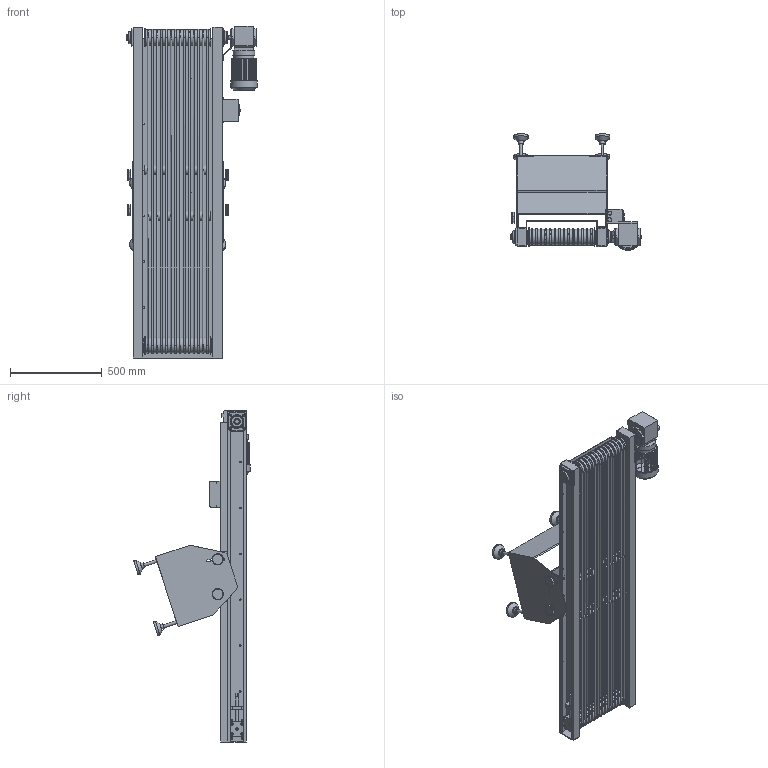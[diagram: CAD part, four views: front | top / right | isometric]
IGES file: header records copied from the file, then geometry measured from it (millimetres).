
Bounding box: 709.69 x 635.58 x 1808 mm (x, y, z)
Surface area: 6677495.9 mm2 (no closed solid volume)
Topology: 0 solids, 0 shells, 1656 faces, 11641 edges, 11421 vertices
Faces by surface type: bspline 1656
